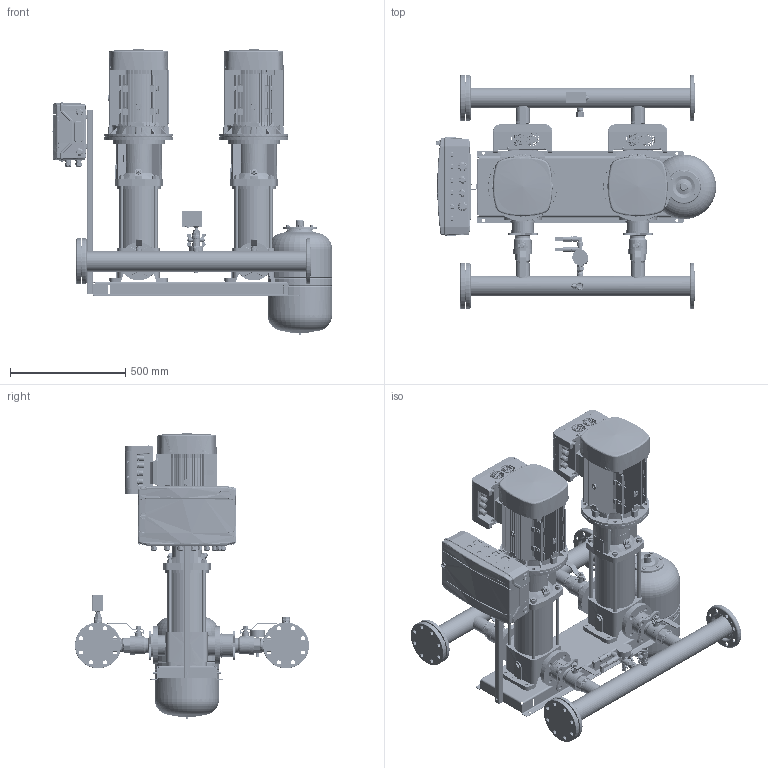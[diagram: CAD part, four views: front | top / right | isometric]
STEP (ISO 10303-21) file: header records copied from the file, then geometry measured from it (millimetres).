
FILE_DESCRIPTION(('CATIA V5 STEP Exchange','CAx-IF Rec.Pracs.--- Model Styling and Organization---1.4--- 2014-01-23','CAx-IF Rec.Pracs.---3D Tessellated Data Validation Properties---0.5---2014-09-14'),'2;1');
FILE_NAME('C:\Users\78432\YandexDisk\Drawings and 3D\3D Hydro Booster\Hydro-ME 3D\Hydro Models\Hydro ME 2 CRV15_20-xx (DIN BV)\Hydro ME 2 CRVE20-6 (DIN BV).stp','2023-09-20T12:40:39+00:00',('none'),('none'),'CATIA Version 5-6 Release 2019 SP6','CATIA V5 STEP AP242 v1','none');
FILE_SCHEMA(('AP242_MANAGED_MODEL_BASED_3D_ENGINEERING_MIM_LF {1 0 10303 442 1 1 4}'));
Products named in the file (44): Hydro ME 2 CRVE20-6 (DIN BV); 92051009; CRV20-6 set (DIN bv); CRV 20-6_A_DIN_7.5kW; Base; Sleeve; Pumphead; Staybolt.1; Staybolt.2; Staybolt.3; Staybolt.4; Plug; AirVent; Motor; 00id2584; 92802785; 99273085; SAJ PDH30 4-7,5kW; 97941446; 405801; 91040270; 91070073; 99110037; 97941483; 00GW4890; Holder and CP 18mod; 92878909; Control ME (18mod); 2 sensors + manometer cpl.; manometr 16 bar; RPD-I-G1_2; 9021-01; 2070 1/2-1/2; _2020 1/2-1/2; 98594078; Tank 24L cpl.; DN20_FF_BF_47.300.20; WAV-24(D140 1''); 9021-03; Relay cpl.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
Assembly tree (54 placements, depth 4):
  Hydro ME 2 CRVE20-6 (DIN BV)
    92051009
    CRV20-6 set (DIN bv)  x2
      CRV 20-6_A_DIN_7.5kW
        Base
        Sleeve
        Pumphead
        Staybolt.1
        Staybolt.2
        Staybolt.3
        Staybolt.4
        Plug
        AirVent
        Motor
      00id2584
      92802785
      99273085
      SAJ PDH30 4-7,5kW
    97941446  x2
      405801
      91040270
      91070073
      99110037
      97941483
    00GW4890  x2
    Holder and CP 18mod
      92878909
      Control ME (18mod)
    2 sensors + manometer cpl.
      manometr 16 bar
      RPD-I-G1_2  x2
      9021-01
      2070 1/2-1/2
      _2020 1/2-1/2
      98594078
    Tank 24L cpl.
      DN20_FF_BF_47.300.20
      9021-03
    Relay cpl.
      Relay RD-2R
      DN20_FF_BF_47.300.20
      2530 3/4-1/2
      _2530 1/2-1/4
    91078139
  WAV-24(D140 1'')
Bounding box: 1216.82 x 1016.5 x 1240.33 mm (x, y, z)
Volume: 70683704.6 mm3; surface area: 10073592 mm2
Topology: 230 solids, 288 shells, 25281 faces, 82410 edges, 58478 vertices
Faces by surface type: plane 10212, cylinder 6723, bspline 5842, cone 1713, torus 594, sphere 197
Entity records: 721623 total; most frequent: CARTESIAN_POINT 379828, ORIENTED_EDGE 89797, EDGE_CURVE 45439, DIRECTION 39164, VERTEX_POINT 31221, B_SPLINE_CURVE_WITH_KNOTS 19615, VECTOR 18375, LINE 18375
